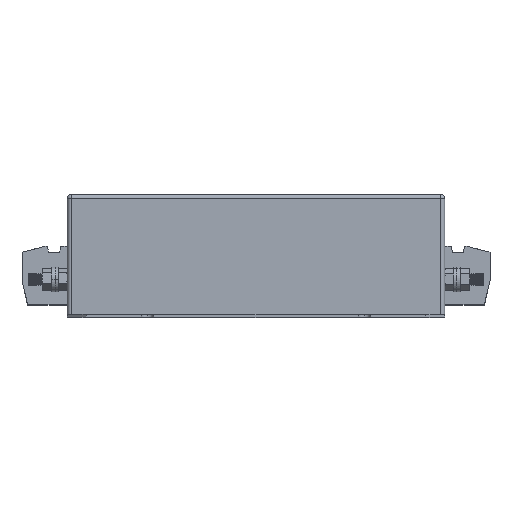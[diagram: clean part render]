
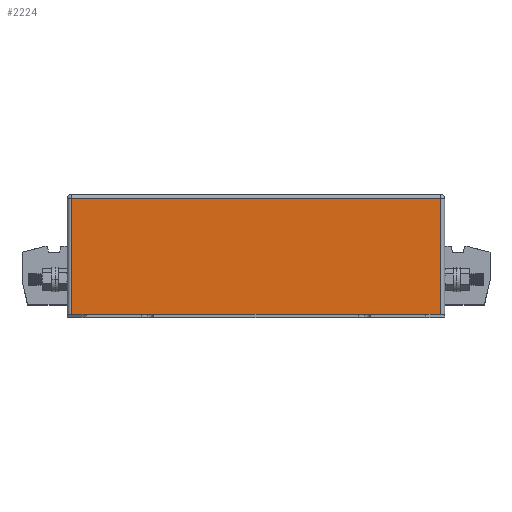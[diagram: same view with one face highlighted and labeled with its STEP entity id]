
A CAD part, top view. The second image highlights one B-rep face of the part: STEP entity #2224.
In plain terms, the highlighted planar face has unit normal (0, 0, 1).
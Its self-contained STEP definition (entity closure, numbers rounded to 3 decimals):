
#218 = EDGE_CURVE ( 'NONE', #3677, #1725, #2792, .T. ) ;
#279 = ORIENTED_EDGE ( 'NONE', *, *, #5888, .T. ) ;
#282 = LINE ( 'NONE', #1261, #4945 ) ;
#378 = ORIENTED_EDGE ( 'NONE', *, *, #6117, .T. ) ;
#582 = CARTESIAN_POINT ( 'NONE',  ( 198., 1.5, -15. ) ) ;
#725 = VERTEX_POINT ( 'NONE', #2873 ) ;
#1134 = VECTOR ( 'NONE', #4901, 1000. ) ;
#1261 = CARTESIAN_POINT ( 'NONE',  ( 198., 65., -15. ) ) ;
#1541 = CARTESIAN_POINT ( 'NONE',  ( 198., 63., -15. ) ) ;
#1725 = VERTEX_POINT ( 'NONE', #6550 ) ;
#1807 = PLANE ( 'NONE',  #6421 ) ;
#1947 = DIRECTION ( 'NONE',  ( 0., 1., 0. ) ) ;
#2005 = DIRECTION ( 'NONE',  ( 0., -1., 0. ) ) ;
#2105 = CARTESIAN_POINT ( 'NONE',  ( 0., 63., -15. ) ) ;
#2224 = ADVANCED_FACE ( 'NONE', ( #2321 ), #1807, .F. ) ;
#2321 = FACE_OUTER_BOUND ( 'NONE', #7674, .T. ) ;
#2740 = DIRECTION ( 'NONE',  ( -1., 0., 0. ) ) ;
#2792 = LINE ( 'NONE', #2105, #4741 ) ;
#2873 = CARTESIAN_POINT ( 'NONE',  ( 2., 1.5, -15. ) ) ;
#2945 = CARTESIAN_POINT ( 'NONE',  ( 0., 1.5, -15. ) ) ;
#3116 = VECTOR ( 'NONE', #2005, 1000. ) ;
#3329 = CARTESIAN_POINT ( 'NONE',  ( 2., 65., -15. ) ) ;
#3449 = EDGE_CURVE ( 'NONE', #1725, #725, #5082, .T. ) ;
#3677 = VERTEX_POINT ( 'NONE', #1541 ) ;
#4741 = VECTOR ( 'NONE', #2740, 1000. ) ;
#4901 = DIRECTION ( 'NONE',  ( 1., 0., 0. ) ) ;
#4945 = VECTOR ( 'NONE', #1947, 1000. ) ;
#5028 = ORIENTED_EDGE ( 'NONE', *, *, #3449, .T. ) ;
#5082 = LINE ( 'NONE', #3329, #3116 ) ;
#5346 = LINE ( 'NONE', #2945, #1134 ) ;
#5810 = CARTESIAN_POINT ( 'NONE',  ( 0., 65., -15. ) ) ;
#5853 = VERTEX_POINT ( 'NONE', #582 ) ;
#5888 = EDGE_CURVE ( 'NONE', #5853, #3677, #282, .T. ) ;
#6117 = EDGE_CURVE ( 'NONE', #725, #5853, #5346, .T. ) ;
#6421 = AXIS2_PLACEMENT_3D ( 'NONE', #5810, #6486, #7872 ) ;
#6486 = DIRECTION ( 'NONE',  ( 0., 0., -1. ) ) ;
#6550 = CARTESIAN_POINT ( 'NONE',  ( 2., 63., -15. ) ) ;
#7674 = EDGE_LOOP ( 'NONE', ( #8173, #5028, #378, #279 ) ) ;
#7872 = DIRECTION ( 'NONE',  ( -1., 0., 0. ) ) ;
#8173 = ORIENTED_EDGE ( 'NONE', *, *, #218, .T. ) ;
